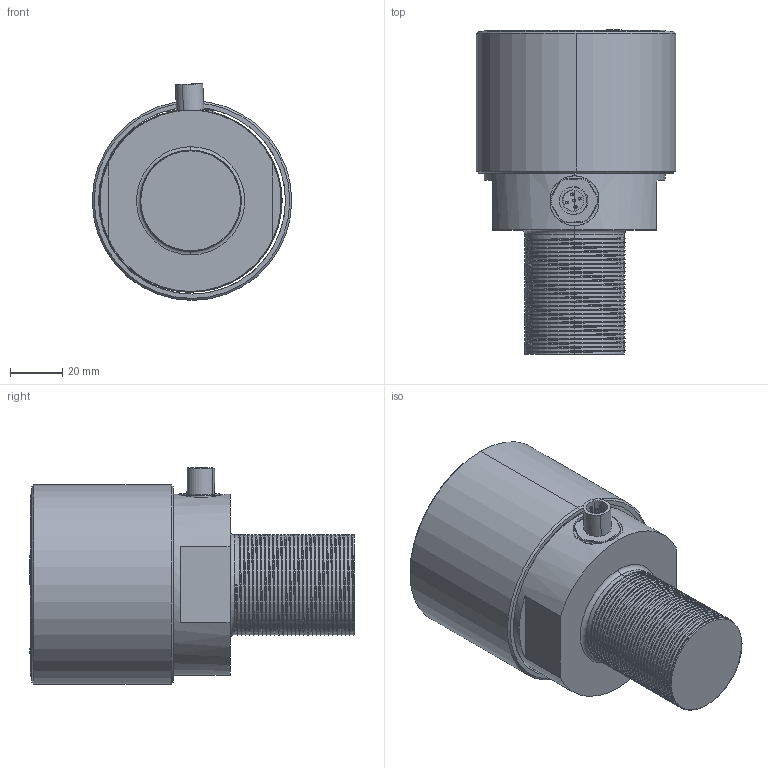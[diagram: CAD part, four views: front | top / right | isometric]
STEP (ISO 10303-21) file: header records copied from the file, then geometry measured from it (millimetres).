
FILE_DESCRIPTION (( 'STEP AP203' ), '1' );
FILE_NAME ('FINAL ASBY SS1709-20K.STEP', '2022-12-08T19:31:03', ( '' ), ( '' ), 'SwSTEP 2.0', 'SolidWorks 2008', '' );
FILE_SCHEMA (( 'CONFIG_CONTROL_DESIGN' ));
Length unit declared in the file: millimetre
Products named in the file (1): FINAL ASBY SS1709-20K
Bounding box: 76.2 x 124.05 x 82.78 mm (x, y, z)
Surface area: 61482.7 mm2 (no closed solid volume)
Topology: 0 solids, 12 shells, 332 faces, 996 edges, 674 vertices
Faces by surface type: cylinder 277, plane 25, torus 20, bspline 6, cone 4
Entity records: 16678 total; most frequent: CARTESIAN_POINT 8919, ORIENTED_EDGE 1796, DIRECTION 1402, EDGE_CURVE 996, VERTEX_POINT 674, AXIS2_PLACEMENT_3D 521, VECTOR 360, LINE 360
